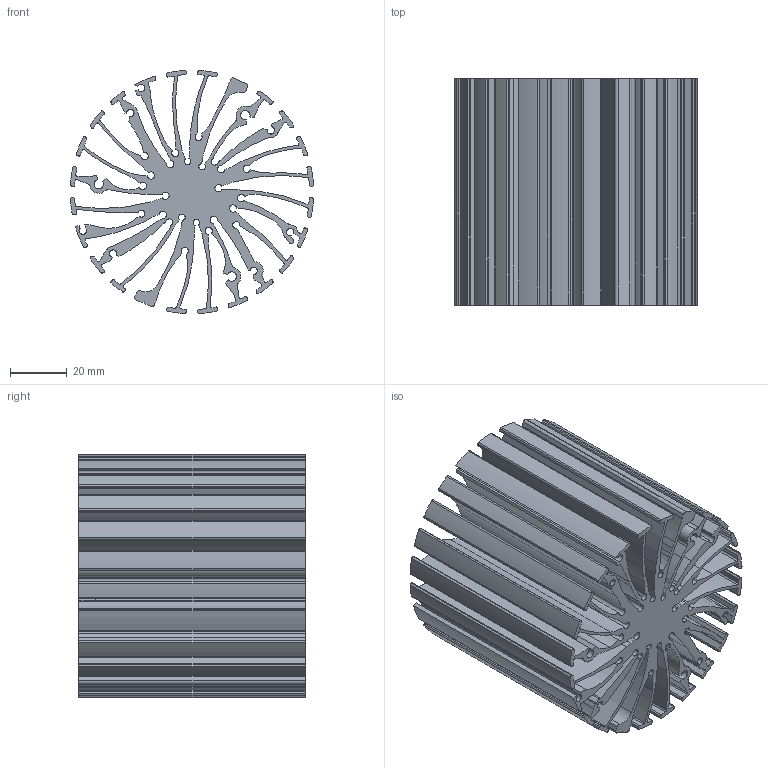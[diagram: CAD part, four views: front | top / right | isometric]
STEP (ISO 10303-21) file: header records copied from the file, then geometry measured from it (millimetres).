
FILE_DESCRIPTION (( 'STEP AP203' ), '1' );
FILE_NAME ('XSA-302.STEP', '2014-10-03T01:00:10', ( '' ), ( '' ), 'SwSTEP 2.0', 'SolidWorks 2014', '' );
FILE_SCHEMA (( 'CONFIG_CONTROL_DESIGN' ));
Length unit declared in the file: millimetre
Products named in the file (1): XSA-302
Bounding box: 85.85 x 80 x 85.85 mm (x, y, z)
Volume: 168120.5 mm3; surface area: 150312.3 mm2
Topology: 1 solids, 1 shells, 505 faces, 1509 edges, 1006 vertices
Faces by surface type: cylinder 455, plane 47, cone 3
Entity records: 17616 total; most frequent: DIRECTION 3423, CARTESIAN_POINT 3042, ORIENTED_EDGE 3018, EDGE_CURVE 1509, AXIS2_PLACEMENT_3D 1415, VERTEX_POINT 1006, CIRCLE 909, VECTOR 593
